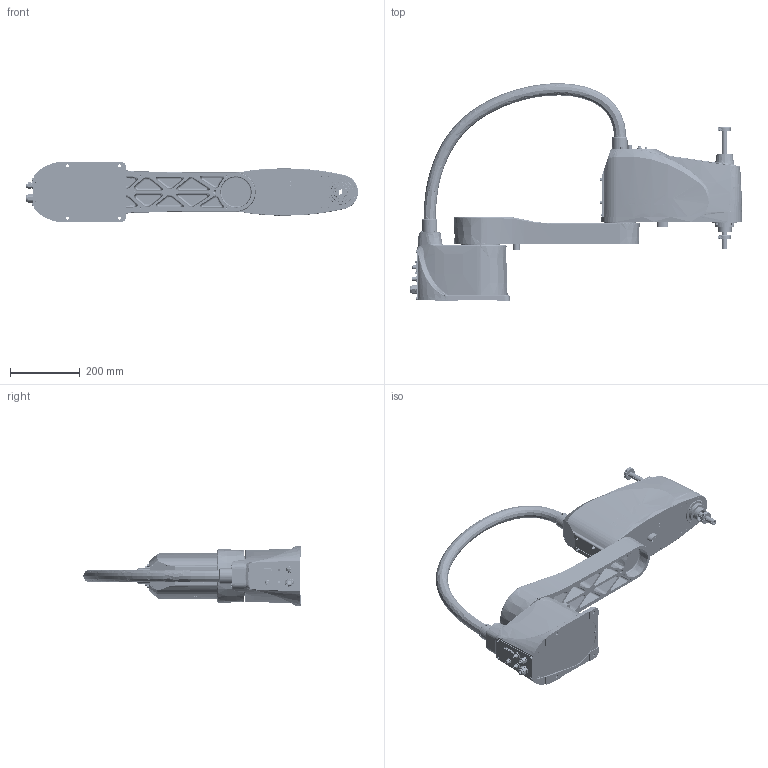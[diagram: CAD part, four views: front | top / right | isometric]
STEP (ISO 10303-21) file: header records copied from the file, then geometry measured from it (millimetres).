
FILE_DESCRIPTION(('STEP AP214'),'1');
FILE_NAME('TR003-HP700 ____ J3____170.stp','2021-08-25T07:23:47',(' '),(' '),'Spatial InterOp 3D',' ',' ');
FILE_SCHEMA(('AUTOMOTIVE_DESIGN { 1 0 10303 214 1 1 1 1 }'));
Length unit declared in the file: millimetre
Products named in the file (6): TR003-HP700 ____ J3____170; ____; TR003-HP700 _____J1; TR003-HP700 _____J2; TR003-HP700 _____J3_J4_R___Z__ ____170; TR003-HP700 ______
Assembly tree (5 placements, depth 2):
  TR003-HP700 ____ J3____170
    ____
    TR003-HP700 _____J1
    TR003-HP700 _____J2
    TR003-HP700 _____J3_J4_R___Z__ ____170
    TR003-HP700 ______
Bounding box: 952.3 x 623.67 x 174 mm (x, y, z)
Volume: 5893935.3 mm3; surface area: 1770684.9 mm2
Topology: 97 solids, 97 shells, 5054 faces, 12458 edges, 7732 vertices
Faces by surface type: plane 1850, cylinder 1788, cone 650, bspline 446, torus 320
Entity records: 262112 total; most frequent: CARTESIAN_POINT 103297, DIRECTION 24776, ORIENTED_EDGE 24270, EDGE_CURVE 12135, AXIS2_PLACEMENT_3D 9714, VERTEX_POINT 7716, EDGE_LOOP 5933, LINE 5348
